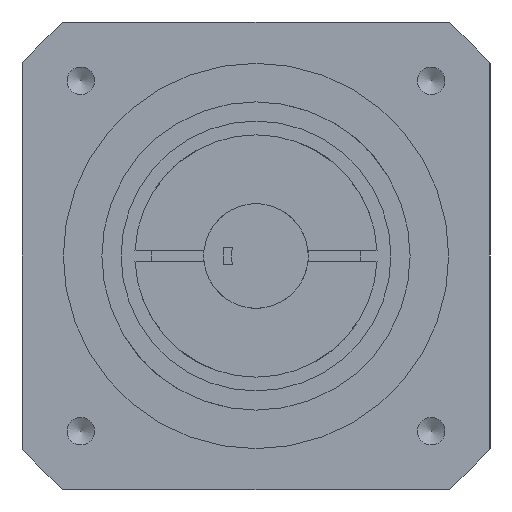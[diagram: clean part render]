
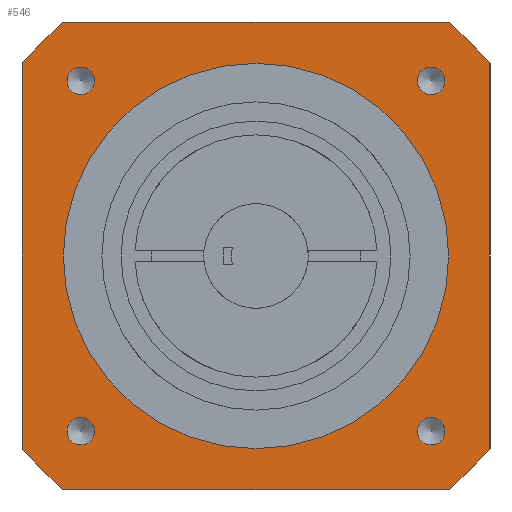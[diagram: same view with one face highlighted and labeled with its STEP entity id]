
A CAD part, left-side view. The second image highlights one B-rep face of the part: STEP entity #546.
In plain terms, the highlighted planar face has unit normal (-1, 0, 0).
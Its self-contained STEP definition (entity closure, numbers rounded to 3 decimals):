
#163=LINE('',#5003,#231);
#164=LINE('',#5008,#232);
#165=LINE('',#5012,#233);
#166=LINE('',#5016,#234);
#231=VECTOR('',#2802,1.);
#232=VECTOR('',#2805,1.);
#233=VECTOR('',#2808,1.);
#234=VECTOR('',#2811,1.);
#546=ADVANCED_FACE('',(#835,#836,#837,#838,#839,#840),#615,.F.);
#615=PLANE('',#2364);
#835=FACE_BOUND('',#1101,.T.);
#836=FACE_BOUND('',#1102,.T.);
#837=FACE_BOUND('',#1103,.T.);
#838=FACE_BOUND('',#1104,.T.);
#839=FACE_BOUND('',#1105,.T.);
#840=FACE_BOUND('',#1106,.T.);
#1101=EDGE_LOOP('',(#1407,#1408,#1409,#1410,#1411,#1412,#1413,#1414));
#1102=EDGE_LOOP('',(#1415));
#1103=EDGE_LOOP('',(#1416));
#1104=EDGE_LOOP('',(#1417));
#1105=EDGE_LOOP('',(#1418));
#1106=EDGE_LOOP('',(#1419));
#1407=ORIENTED_EDGE('',*,*,#1955,.T.);
#1408=ORIENTED_EDGE('',*,*,#1956,.F.);
#1409=ORIENTED_EDGE('',*,*,#1957,.T.);
#1410=ORIENTED_EDGE('',*,*,#1958,.F.);
#1411=ORIENTED_EDGE('',*,*,#1959,.T.);
#1412=ORIENTED_EDGE('',*,*,#1960,.F.);
#1413=ORIENTED_EDGE('',*,*,#1961,.T.);
#1414=ORIENTED_EDGE('',*,*,#1962,.F.);
#1415=ORIENTED_EDGE('',*,*,#1948,.T.);
#1416=ORIENTED_EDGE('',*,*,#1939,.F.);
#1417=ORIENTED_EDGE('',*,*,#1937,.F.);
#1418=ORIENTED_EDGE('',*,*,#1935,.F.);
#1419=ORIENTED_EDGE('',*,*,#1933,.F.);
#1736=VERTEX_POINT('',#4711);
#1739=VERTEX_POINT('',#4718);
#1742=VERTEX_POINT('',#4725);
#1745=VERTEX_POINT('',#4732);
#1755=VERTEX_POINT('',#4986);
#1762=VERTEX_POINT('',#5004);
#1763=VERTEX_POINT('',#5005);
#1764=VERTEX_POINT('',#5007);
#1765=VERTEX_POINT('',#5009);
#1766=VERTEX_POINT('',#5011);
#1767=VERTEX_POINT('',#5013);
#1768=VERTEX_POINT('',#5015);
#1769=VERTEX_POINT('',#5017);
#1933=EDGE_CURVE('',#1736,#1736,#2116,.T.);
#1935=EDGE_CURVE('',#1739,#1739,#2118,.T.);
#1937=EDGE_CURVE('',#1742,#1742,#2120,.T.);
#1939=EDGE_CURVE('',#1745,#1745,#2122,.T.);
#1948=EDGE_CURVE('',#1755,#1755,#2127,.T.);
#1955=EDGE_CURVE('',#1762,#1763,#163,.T.);
#1956=EDGE_CURVE('',#1764,#1763,#2134,.T.);
#1957=EDGE_CURVE('',#1764,#1765,#164,.T.);
#1958=EDGE_CURVE('',#1766,#1765,#2135,.T.);
#1959=EDGE_CURVE('',#1766,#1767,#165,.T.);
#1960=EDGE_CURVE('',#1768,#1767,#2136,.T.);
#1961=EDGE_CURVE('',#1768,#1769,#166,.T.);
#1962=EDGE_CURVE('',#1762,#1769,#2137,.T.);
#2116=CIRCLE('',#2325,2.5);
#2118=CIRCLE('',#2329,2.5);
#2120=CIRCLE('',#2333,2.5);
#2122=CIRCLE('',#2337,2.5);
#2127=CIRCLE('',#2349,35.);
#2134=CIRCLE('',#2360,55.);
#2135=CIRCLE('',#2361,55.);
#2136=CIRCLE('',#2362,55.);
#2137=CIRCLE('',#2363,55.);
#2325=AXIS2_PLACEMENT_3D('',#4710,#2732,#2733);
#2329=AXIS2_PLACEMENT_3D('',#4717,#2740,#2741);
#2333=AXIS2_PLACEMENT_3D('',#4724,#2748,#2749);
#2337=AXIS2_PLACEMENT_3D('',#4731,#2756,#2757);
#2349=AXIS2_PLACEMENT_3D('',#4985,#2780,#2781);
#2360=AXIS2_PLACEMENT_3D('',#5006,#2803,#2804);
#2361=AXIS2_PLACEMENT_3D('',#5010,#2806,#2807);
#2362=AXIS2_PLACEMENT_3D('',#5014,#2809,#2810);
#2363=AXIS2_PLACEMENT_3D('',#5018,#2812,#2813);
#2364=AXIS2_PLACEMENT_3D('',#5019,#2814,#2815);
#2732=DIRECTION('',(-1.,0.,0.));
#2733=DIRECTION('',(0.,0.,1.));
#2740=DIRECTION('',(-1.,0.,0.));
#2741=DIRECTION('',(0.,0.,1.));
#2748=DIRECTION('',(-1.,0.,0.));
#2749=DIRECTION('',(0.,0.,1.));
#2756=DIRECTION('',(-1.,0.,0.));
#2757=DIRECTION('',(0.,0.,1.));
#2780=DIRECTION('',(1.,0.,0.));
#2781=DIRECTION('',(0.,0.,-1.));
#2802=DIRECTION('',(0.,1.,0.));
#2803=DIRECTION('',(1.,0.,0.));
#2804=DIRECTION('',(0.,0.,-1.));
#2805=DIRECTION('',(0.,0.,-1.));
#2806=DIRECTION('',(1.,0.,0.));
#2807=DIRECTION('',(0.,0.,-1.));
#2808=DIRECTION('',(0.,-1.,0.));
#2809=DIRECTION('',(1.,0.,0.));
#2810=DIRECTION('',(0.,0.,-1.));
#2811=DIRECTION('',(0.,0.,1.));
#2812=DIRECTION('',(1.,0.,0.));
#2813=DIRECTION('',(0.,0.,-1.));
#2814=DIRECTION('',(1.,0.,0.));
#2815=DIRECTION('',(0.,0.,1.));
#4710=CARTESIAN_POINT('',(-76.25,31.82,-31.82));
#4711=CARTESIAN_POINT('',(-76.25,31.82,-29.32));
#4717=CARTESIAN_POINT('',(-76.25,-31.82,-31.82));
#4718=CARTESIAN_POINT('',(-76.25,-31.82,-29.32));
#4724=CARTESIAN_POINT('',(-76.25,-31.82,31.82));
#4725=CARTESIAN_POINT('',(-76.25,-31.82,34.32));
#4731=CARTESIAN_POINT('',(-76.25,31.82,31.82));
#4732=CARTESIAN_POINT('',(-76.25,31.82,34.32));
#4985=CARTESIAN_POINT('',(-76.25,0.,0.));
#4986=CARTESIAN_POINT('',(-76.25,0.,-35.));
#5003=CARTESIAN_POINT('',(-76.25,42.5,42.5));
#5004=CARTESIAN_POINT('',(-76.25,-34.911,42.5));
#5005=CARTESIAN_POINT('',(-76.25,34.911,42.5));
#5006=CARTESIAN_POINT('',(-76.25,0.,0.));
#5007=CARTESIAN_POINT('',(-76.25,42.5,34.911));
#5008=CARTESIAN_POINT('',(-76.25,42.5,-42.5));
#5009=CARTESIAN_POINT('',(-76.25,42.5,-34.911));
#5010=CARTESIAN_POINT('',(-76.25,0.,0.));
#5011=CARTESIAN_POINT('',(-76.25,34.911,-42.5));
#5012=CARTESIAN_POINT('',(-76.25,42.5,-42.5));
#5013=CARTESIAN_POINT('',(-76.25,-34.911,-42.5));
#5014=CARTESIAN_POINT('',(-76.25,0.,0.));
#5015=CARTESIAN_POINT('',(-76.25,-42.5,-34.911));
#5016=CARTESIAN_POINT('',(-76.25,-42.5,-42.5));
#5017=CARTESIAN_POINT('',(-76.25,-42.5,34.911));
#5018=CARTESIAN_POINT('',(-76.25,0.,0.));
#5019=CARTESIAN_POINT('',(-76.25,55.,0.));
